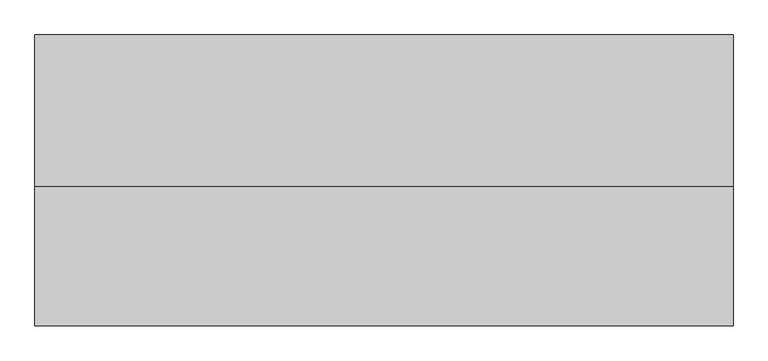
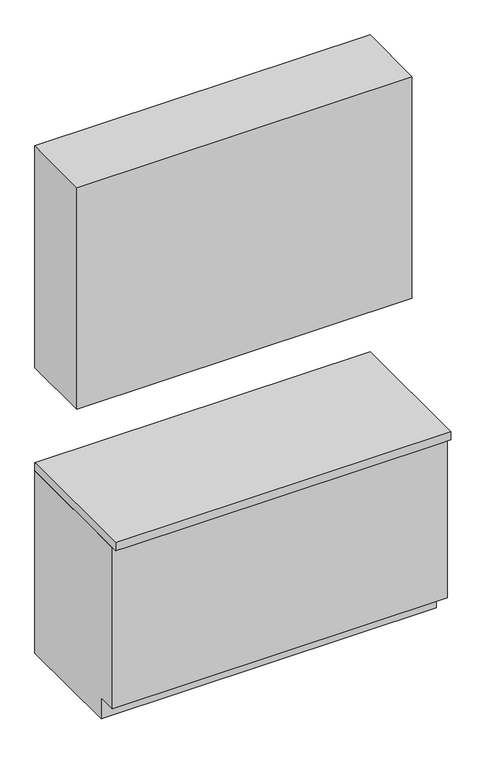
"""IFC4 building model written with IfcOpenShell, lengths in millimetres: furniture geometry, Casework Schematic - Base and Upper : Casework Schematic."""

from ifc_helpers import new_model, si_unit, frame, origin, place, context, project, spatial, polyline, outline, extrude, faceted_brep, source, transform, mapped, element, save


def furniture_a232d697(model_context):
    return source(origin(), model_context, "Body", "SolidModel", [
        extrude(outline(polyline([(0.0, 0.0), (1524.0, 0.0), (1524.0, -330.2), (0.0, -330.2), (0.0, 0.0)])), frame((0.0, 0.0, 1371.6), z_axis=(0.0, 0.0, 1.0), x_axis=(1.0, 0.0, 0.0)), (0.0, 0.0, 1.0), 1066.8),
        extrude(outline(polyline([(0.0, 876.3), (0.0, 0.0), (-520.7, 0.0), (-520.7, 101.6), (-609.6, 101.6), (-609.6, 876.3), (0.0, 876.3)])), frame((0.0, 0.0, 0.0), z_axis=(1.0, 0.0, 0.0), x_axis=(0.0, 1.0, 0.0)), (0.0, 0.0, 1.0), 1524.0),
        faceted_brep([(1524.0, 0.0, 876.3), (1524.0, -12.7, 876.3), (1524.0, -635.0, 876.3), (1511.3, -635.0, 876.3), (1485.9, -635.0, 876.3), (38.1, -635.0, 876.3), (12.7, -635.0, 876.3), (0.0, -635.0, 876.3), (0.0, -12.7, 876.3), (0.0, 0.0, 876.3), (12.7, 0.0, 876.3), (38.1, 0.0, 876.3), (1485.9, 0.0, 876.3), (1511.3, 0.0, 876.3), (1524.0, -635.0, 914.4), (1524.0, -12.7, 914.4), (1524.0, 0.0, 914.4), (1511.3, 0.0, 914.4), (12.7, 0.0, 914.4), (0.0, 0.0, 914.4), (0.0, -12.7, 914.4), (0.0, -635.0, 914.4), (12.7, -635.0, 914.4), (1511.3, -635.0, 914.4), (1524.0, -635.0, 889.0), (0.0, -635.0, 889.0), (0.0, 0.0, 889.0), (1524.0, 0.0, 889.0)], [[[0, 1, 2, 3, 4, 5, 6, 7, 8, 9, 10, 11, 12, 13]], [[14, 15, 16, 17, 18, 19, 20, 21, 22, 23]], [[2, 24, 14, 23, 22, 21, 25, 7, 6, 5, 4, 3]], [[8, 7, 25, 21, 20, 19, 26, 9]], [[13, 12, 11, 10, 9, 26, 19, 18, 17, 16, 27, 0]], [[27, 16, 15, 14, 24, 2, 1, 0]]]),
    ])


if __name__ == "__main__":
    model = new_model("IFC4")
    model_context = context("Model", 3, world=origin())
    ifc_project = project(units=[si_unit("LENGTHUNIT", "METRE", prefix="MILLI")], contexts=[model_context])
    site = spatial("IfcSite", under=ifc_project)
    building = spatial("IfcBuilding", under=site)
    placement = place(None, origin())
    furniture_shape = furniture_a232d697(model_context)
    element("IfcFurniture", 1, ObjectType="Casework Schematic - Base and Upper : Casework Schematic", at=placement, inside=building, context=model_context, shape_type="MappedRepresentation", body=[
        mapped(furniture_shape, transform((0.0, 0.0, 0.0), x_axis=(1.0, 0.0, 0.0), y_axis=(0.0, 1.0, 0.0), z_axis=(0.0, 0.0, 1.0))),
    ])
    save(model, "model.ifc")
